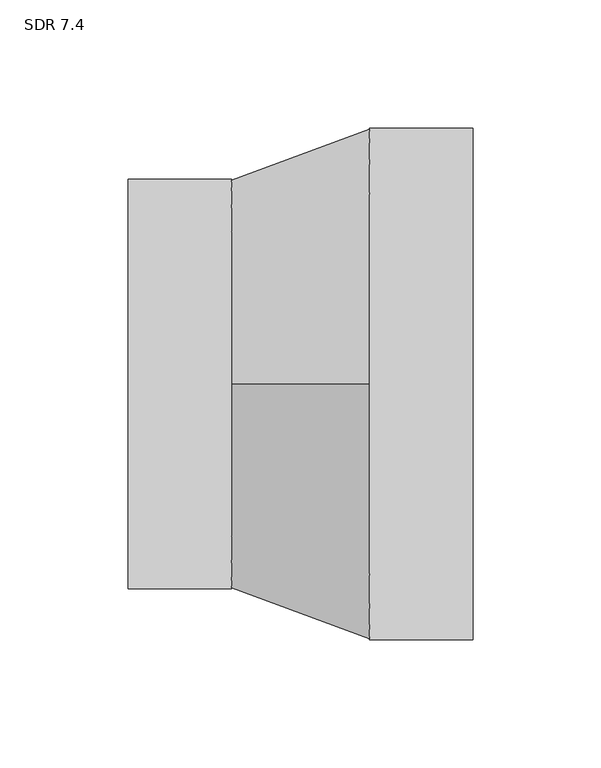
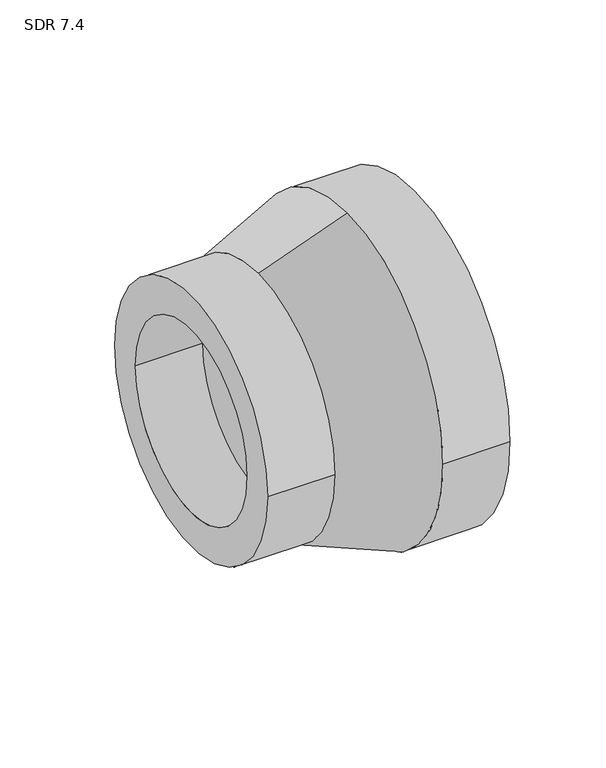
"""IFC4 building model written with IfcOpenShell, lengths in millimetres: pipe fitting geometry, Aquatherm - Reducing Coupling Combined - METRIC : SDR 7.4."""

import ifcopenshell
import ifcopenshell.guid

model = None  # the IFC model being written
_history = None  # IfcOwnerHistory: only IFC2X3 demands one
_inside = {}  # id of a spatial element -> (the spatial element, [elements in it])
_under = {}  # id of a project, library or spatial element -> (it, [spatial elements below it])
_declared = {}  # id of a project -> (the project, [libraries it declares])
_typed = {}  # id of a type object -> (the type object, [elements of that type])
_made_of = {}  # id of a material, layer set ... -> (it, [elements and type objects made of it])


def new_model(schema):
    """Start an empty IFC model of exactly this schema.

    Asked for "IFC4X3", IfcOpenShell would pick the latest addendum, in which some entities
    have other attributes; the version numbers below select the first issue.
    IFC2X3 requires an IfcOwnerHistory on every rooted entity: one is made here for all.
    """
    global model, _history
    if schema == "IFC4X3":
        model = ifcopenshell.file(schema_version=(4, 3, 0, 0))
    else:
        model = ifcopenshell.file(schema=schema)
    _inside.clear()
    _under.clear()
    _declared.clear()
    _typed.clear()
    _made_of.clear()
    _history = None
    if model.schema == "IFC2X3":
        org = make("IfcOrganization", Name="unknown")
        user = make(
            "IfcPersonAndOrganization",
            ThePerson=make("IfcPerson", FamilyName="unknown"),
            TheOrganization=org,
        )
        app = make(
            "IfcApplication",
            ApplicationDeveloper=org,
            Version="unknown",
            ApplicationFullName="unknown",
            ApplicationIdentifier="unknown",
        )
        _history = make(
            "IfcOwnerHistory",
            OwningUser=user,
            OwningApplication=app,
            ChangeAction="ADDED",
            CreationDate=0,
        )
    return model


def make(cls, **values):
    """One entity of the class cls with the attributes given. An attribute that is None is left unset."""
    return model.create_entity(
        cls, **{name: value for name, value in values.items() if value is not None}
    )


def rooted(cls, **values):
    """An entity with a GlobalId (a new one), such as an element, a storey or a relation."""
    return make(cls, GlobalId=ifcopenshell.guid.new(), OwnerHistory=_history, **values)


def si_unit(unit_type, name, prefix=None):
    """IfcSIUnit, for example si_unit("LENGTHUNIT", "METRE", prefix="MILLI")."""
    return make("IfcSIUnit", UnitType=unit_type, Prefix=prefix, Name=name)


def assignment(units):
    """IfcUnitAssignment: the units of a project."""
    return None if units is None else make("IfcUnitAssignment", Units=units)


def point(xyz):
    """IfcCartesianPoint."""
    return None if xyz is None else make("IfcCartesianPoint", Coordinates=xyz)


def direction(xyz):
    """IfcDirection."""
    return None if xyz is None else make("IfcDirection", DirectionRatios=xyz)


def frame(location, z_axis=None, x_axis=None):
    """IfcAxis2Placement3D, a coordinate frame: its origin and axes. An axis left out is left unset."""
    return make(
        "IfcAxis2Placement3D",
        Location=point(location),
        Axis=direction(z_axis),
        RefDirection=direction(x_axis),
    )


def origin():
    """The frame at (0, 0, 0) with its axes left unset."""
    return frame((0.0, 0.0, 0.0))


def place(relative_to, where):
    """IfcLocalPlacement: puts the frame where relative to a parent placement (None: the world)."""
    return make(
        "IfcLocalPlacement", PlacementRelTo=relative_to, RelativePlacement=where
    )


def context(
    kind, dimensions, precision=None, world=None, true_north=None, identifier=None
):
    """IfcGeometricRepresentationContext, for example the 3D "Model" context."""
    return make(
        "IfcGeometricRepresentationContext",
        ContextIdentifier=identifier,
        ContextType=kind,
        CoordinateSpaceDimension=dimensions,
        Precision=precision,
        WorldCoordinateSystem=world,
        TrueNorth=true_north,
    )


def project(units=None, contexts=None):
    """IfcProject with its units and contexts."""
    return rooted(
        "IfcProject",
        Name="project",
        RepresentationContexts=contexts,
        UnitsInContext=assignment(units),
    )


def spatial(cls, under=None, at=None, **own):
    """A site, building, storey or space (cls), placed at a placement, below another one or the project."""
    s = rooted(cls, ObjectPlacement=at, **own)
    if under is not None:
        _under.setdefault(under.id(), (under, []))[1].append(s)
    return s


def polyline(points):
    """IfcPolyline through the points."""
    return make("IfcPolyline", Points=[point(p) for p in points])


def circle_curve(where, radius):
    """IfcCircle in the frame where."""
    return make("IfcCircle", Position=where, Radius=radius)


def shape(context_of_items, identifier, shape_type, items):
    """IfcShapeRepresentation: the items that make up one representation, for example the "Body"."""
    return make(
        "IfcShapeRepresentation",
        ContextOfItems=context_of_items,
        RepresentationIdentifier=identifier,
        RepresentationType=shape_type,
        Items=items,
    )


def source(mapping_origin, context_of_items, identifier, shape_type, items):
    """IfcRepresentationMap: a shape defined once, which mapped items show again and again."""
    return make(
        "IfcRepresentationMap",
        MappingOrigin=mapping_origin,
        MappedRepresentation=shape(context_of_items, identifier, shape_type, items),
    )


def transform(
    local_origin,
    x_axis=None,
    y_axis=None,
    z_axis=None,
    scale=None,
    scale2=None,
    scale3=None,
    uniform=True,
):
    """IfcCartesianTransformationOperator3D, or its non-uniform kind. x_axis, y_axis, z_axis: its Axis1, 2, 3."""
    if uniform:
        return make(
            "IfcCartesianTransformationOperator3D",
            Axis1=direction(x_axis),
            Axis2=direction(y_axis),
            LocalOrigin=point(local_origin),
            Scale=scale,
            Axis3=direction(z_axis),
        )
    return make(
        "IfcCartesianTransformationOperator3DnonUniform",
        Axis1=direction(x_axis),
        Axis2=direction(y_axis),
        LocalOrigin=point(local_origin),
        Scale=scale,
        Axis3=direction(z_axis),
        Scale2=scale2,
        Scale3=scale3,
    )


def mapped(mapping_source, mapping_target):
    """IfcMappedItem: shows the shape of a source again, moved by a transform."""
    return make(
        "IfcMappedItem", MappingSource=mapping_source, MappingTarget=mapping_target
    )


def made_of(thing, what):
    """Note that an element or type object is made of a material, layer set ...; save() writes the relation."""
    if what is not None:
        _made_of.setdefault(what.id(), (what, []))[1].append(thing)
    return thing


def element(
    cls,
    number,
    at=None,
    inside=None,
    cuts=None,
    type_object=None,
    material=None,
    context=None,
    identifier="Body",
    shape_type=None,
    held_by="IfcProductDefinitionShape",
    body=None,
    shapes=None,
    **own,
):
    """One element of the class cls, such as IfcWall. Its Tag is "e" and its number.

    at: its placement. inside: the storey or other place that contains it. cuts: it is an
    opening in that element (IfcRelVoidsElement). A single representation is given by context,
    identifier, shape_type and body (its items); several are given by shapes. held_by: the class
    of the entity that holds the representations. save() writes the other relations.
    """
    e = rooted(cls, Tag="e%d" % number, ObjectPlacement=at, **own)
    if body is not None:
        shapes = [shape(context, identifier, shape_type, body)]
    if shapes is not None:
        e.Representation = make(held_by, Representations=shapes)
    if inside is not None:
        _inside.setdefault(inside.id(), (inside, []))[1].append(e)
    if cuts is not None:
        rooted(
            "IfcRelVoidsElement", RelatingBuildingElement=cuts, RelatedOpeningElement=e
        )
    if type_object is not None:
        _typed.setdefault(type_object.id(), (type_object, []))[1].append(e)
    return made_of(e, material)


def aggregate(whole, parts):
    """IfcRelAggregates: a whole, such as a stair, and the parts it consists of."""
    return rooted("IfcRelAggregates", RelatingObject=whole, RelatedObjects=parts)


def save(model, path):
    """Write the relations noted so far, then the file.

    IfcRelAggregates (storeys below a building ...), IfcRelContainedInSpatialStructure (elements
    in a storey), IfcRelDefinesByType, IfcRelAssociatesMaterial and IfcRelDeclares: one each for
    every whole, place, type object, material and project.
    """
    for whole, parts in _under.values():
        aggregate(whole, parts)
    for where, things in _inside.values():
        rooted(
            "IfcRelContainedInSpatialStructure",
            RelatedElements=things,
            RelatingStructure=where,
        )
    for kind, things in _typed.values():
        rooted("IfcRelDefinesByType", RelatedObjects=things, RelatingType=kind)
    for what, things in _made_of.values():
        rooted("IfcRelAssociatesMaterial", RelatedObjects=things, RelatingMaterial=what)
    for by, libraries in _declared.values():
        rooted("IfcRelDeclares", RelatingContext=by, RelatedDefinitions=libraries)
    model.write(path)


def plane_surface(at):
    """IfcPlane: the flat surface through the origin of the frame at, square to its z axis."""
    return make("IfcPlane", Position=at)


def cylinder_surface(at, radius):
    """IfcCylindricalSurface: all points at the distance radius from the z axis of the frame at."""
    return make("IfcCylindricalSurface", Position=at, Radius=radius)


def revolved_surface(curve, axis_point, axis_direction):
    """IfcSurfaceOfRevolution: the curve turned about the line through axis_point along axis_direction."""
    return make(
        "IfcSurfaceOfRevolution",
        SweptCurve=make("IfcArbitraryOpenProfileDef", ProfileType="CURVE", Curve=curve),
        AxisPosition=make("IfcAxis1Placement", Location=point(axis_point), Axis=direction(axis_direction)),
    )


def advanced_brep(points, edges, surfaces, faces):
    """IfcAdvancedBrep: a solid bounded by faces that lie on surfaces and meet in shared edges.

    An edge is (start, end): straight between two places in points (the first is 0);
    or (start, end, curve); or (start, end, curve, False) where it runs against its curve.
    A face is (place in surfaces, loops), or (place, loops, False) where it looks against
    its surface's normal. A loop lists edges by number (the first is 1), with a minus sign
    where the edge is run from its end to its start. The first loop is the outer one.
    """
    corners = [point(p) for p in points]
    vertices = [make("IfcVertexPoint", VertexGeometry=c) for c in corners]
    made = []
    for start, end, *more in edges:
        made.append(
            make(
                "IfcEdgeCurve",
                EdgeStart=vertices[start],
                EdgeEnd=vertices[end],
                EdgeGeometry=more[0] if more else make("IfcPolyline", Points=[corners[start], corners[end]]),
                SameSense=more[1] if len(more) > 1 else True,
            )
        )
    hull = []
    for where, loops, *sense in faces:
        bounds = []
        for j, loop in enumerate(loops):
            ring = [make("IfcOrientedEdge", EdgeElement=made[abs(k) - 1], Orientation=k > 0) for k in loop]
            bounds.append(
                make(
                    "IfcFaceOuterBound" if j == 0 else "IfcFaceBound",
                    Bound=make("IfcEdgeLoop", EdgeList=ring),
                    Orientation=True,
                )
            )
        hull.append(make("IfcAdvancedFace", Bounds=bounds, FaceSurface=surfaces[where], SameSense=sense[0] if sense else True))
    return make("IfcAdvancedBrep", Outer=make("IfcClosedShell", CfsFaces=hull))


def sdr_7_4_31872572(model_context):
    return source(origin(), model_context, "Body", "AdvancedBrep", [
        advanced_brep(
        [(-67.437, -80.01, 0.0), (-67.437, 80.01, 0.0), (-67.437, -58.3856757, 0.0), (-67.437, 58.3856757, 0.0), (-26.9748, 58.3856757, 0.0), (-26.9748, 0.0, 58.3856757), (-26.9748, -58.3856757, 0.0), (-26.9748, 0.0, -58.3856757), (-26.9748, 80.01, 0.0), (-26.9748, 0.0, -80.01), (-26.9748, -80.01, 0.0), (-26.9748, 0.0, 80.01), (67.437, -99.949, 0.0), (67.437, 99.949, 0.0), (67.437, -72.9357568, 0.0), (67.437, 72.9357568, 0.0), (26.9748, -99.949, 0.0), (26.9748, 0.0, -99.949), (26.9748, 99.949, 0.0), (26.9748, 0.0, 99.949), (26.9748, -72.9357568, 0.0), (26.9748, 0.0, 72.9357568), (26.9748, 72.9357568, 0.0), (26.9748, 0.0, -72.9357568)],
        [
            (0, 1, circle_curve(frame((-67.437, 0.0, 0.0), z_axis=(-1.0, 0.0, 0.0), x_axis=(0.0, 1.0, 0.0)), 80.01)),
            (1, 0, circle_curve(frame((-67.437, 0.0, 0.0), z_axis=(-1.0, 0.0, 0.0), x_axis=(0.0, 1.0, 0.0)), 80.01)),
            (2, 3, circle_curve(frame((-67.437, 0.0, 0.0), z_axis=(1.0, 0.0, 0.0), x_axis=(0.0, 1.0, 0.0)), 58.3856757)),
            (3, 2, circle_curve(frame((-67.437, 0.0, 0.0), z_axis=(1.0, 0.0, 0.0), x_axis=(0.0, 1.0, 0.0)), 58.3856757)),
            (3, 4),
            (4, 5, circle_curve(frame((-26.9748, 0.0, 0.0), z_axis=(1.0, 0.0, 0.0), x_axis=(0.0, 1.0, 0.0)), 58.3856757)),
            (5, 6, circle_curve(frame((-26.9748, 0.0, 0.0), z_axis=(1.0, 0.0, 0.0), x_axis=(0.0, 1.0, 0.0)), 58.3856757)),
            (6, 2),
            (6, 7, circle_curve(frame((-26.9748, 0.0, 0.0), z_axis=(1.0, 0.0, 0.0), x_axis=(0.0, 1.0, 0.0)), 58.3856757)),
            (7, 4, circle_curve(frame((-26.9748, 0.0, 0.0), z_axis=(1.0, 0.0, 0.0), x_axis=(0.0, 1.0, 0.0)), 58.3856757)),
            (1, 8),
            (8, 9, circle_curve(frame((-26.9748, 0.0, 0.0), z_axis=(-1.0, 0.0, 0.0), x_axis=(0.0, 1.0, 0.0)), 80.01)),
            (9, 10, circle_curve(frame((-26.9748, 0.0, 0.0), z_axis=(-1.0, 0.0, 0.0), x_axis=(0.0, 1.0, 0.0)), 80.01)),
            (10, 0),
            (10, 11, circle_curve(frame((-26.9748, 0.0, 0.0), z_axis=(-1.0, 0.0, 0.0), x_axis=(0.0, 1.0, 0.0)), 80.01)),
            (11, 8, circle_curve(frame((-26.9748, 0.0, 0.0), z_axis=(-1.0, 0.0, 0.0), x_axis=(0.0, 1.0, 0.0)), 80.01)),
            (12, 13, circle_curve(frame((67.437, 0.0, 0.0), z_axis=(1.0, 0.0, 0.0), x_axis=(0.0, 1.0, 0.0)), 99.949)),
            (13, 12, circle_curve(frame((67.437, 0.0, 0.0), z_axis=(1.0, 0.0, 0.0), x_axis=(0.0, 1.0, 0.0)), 99.949)),
            (14, 15, circle_curve(frame((67.437, 0.0, 0.0), z_axis=(-1.0, 0.0, 0.0), x_axis=(0.0, 1.0, 0.0)), 72.9357568)),
            (15, 14, circle_curve(frame((67.437, 0.0, 0.0), z_axis=(-1.0, 0.0, 0.0), x_axis=(0.0, 1.0, 0.0)), 72.9357568)),
            (12, 16),
            (16, 17, circle_curve(frame((26.9748, 0.0, 0.0), z_axis=(1.0, 0.0, 0.0), x_axis=(0.0, 1.0, 0.0)), 99.949)),
            (17, 18, circle_curve(frame((26.9748, 0.0, 0.0), z_axis=(1.0, 0.0, 0.0), x_axis=(0.0, 1.0, 0.0)), 99.949)),
            (18, 13),
            (18, 19, circle_curve(frame((26.9748, 0.0, 0.0), z_axis=(1.0, 0.0, 0.0), x_axis=(0.0, 1.0, 0.0)), 99.949)),
            (19, 16, circle_curve(frame((26.9748, 0.0, 0.0), z_axis=(1.0, 0.0, 0.0), x_axis=(0.0, 1.0, 0.0)), 99.949)),
            (14, 20),
            (20, 21, circle_curve(frame((26.9748, 0.0, 0.0), z_axis=(-1.0, 0.0, 0.0), x_axis=(0.0, 1.0, 0.0)), 72.9357568)),
            (21, 22, circle_curve(frame((26.9748, 0.0, 0.0), z_axis=(-1.0, 0.0, 0.0), x_axis=(0.0, 1.0, 0.0)), 72.9357568)),
            (22, 15),
            (22, 23, circle_curve(frame((26.9748, 0.0, 0.0), z_axis=(-1.0, 0.0, 0.0), x_axis=(0.0, 1.0, 0.0)), 72.9357568)),
            (23, 20, circle_curve(frame((26.9748, 0.0, 0.0), z_axis=(-1.0, 0.0, 0.0), x_axis=(0.0, 1.0, 0.0)), 72.9357568)),
            (11, 19),
            (17, 9),
            (21, 5),
            (7, 23),
        ],
        [
            plane_surface(frame((-67.437, 58.3856757, 0.0), z_axis=(-1.0, 0.0, 0.0), x_axis=(0.0, 0.0, 1.0))),
            revolved_surface(polyline([(-67.437, 58.3856757, 0.0), (-26.974800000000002, 58.3856757, 0.0)]), (-67.437, 0.0, 0.0), (-1.0, 0.0, 0.0)),
            cylinder_surface(frame((0.0, 0.0, 0.0), z_axis=(1.0, 0.0, 0.0), x_axis=(0.0, 1.0, 0.0)), 80.01),
            plane_surface(frame((67.437, 99.949, 0.0), z_axis=(1.0, 0.0, 0.0), x_axis=(0.0, 0.0, 1.0))),
            cylinder_surface(frame((26.9748, 0.0, 0.0), z_axis=(1.0, 0.0, 0.0), x_axis=(0.0, 1.0, 0.0)), 99.949),
            revolved_surface(polyline([(26.9748, 72.9357568, 0.0), (67.437, 72.9357568, 0.0)]), (0.0, 0.0, 0.0), (-1.0, 0.0, 0.0)),
            revolved_surface(polyline([(26.9748, 0.0, 99.949), (-26.9748, 0.0, 80.01)]), (-642.6965384, 0.0, 0.0), (-1.0, 0.0, 0.0)),
            revolved_surface(polyline([(-26.9748, 0.0, 58.3856757), (26.9748, 0.0, 72.9357568)]), (-642.6965384, 0.0, 0.0), (-1.0, 0.0, 0.0)),
        ],
        [
            (0, [[1, 2], [3, 4]]),
            (1, [[-4, 5, 6, 7, 8]]),
            (1, [[-3, -8, 9, 10, -5]]),
            (2, [[-2, 11, 12, 13, 14]]),
            (2, [[-1, -14, 15, 16, -11]]),
            (3, [[17, 18], [19, 20]]),
            (4, [[-17, 21, 22, 23, 24]]),
            (4, [[-18, -24, 25, 26, -21]]),
            (5, [[-19, 27, 28, 29, 30]]),
            (5, [[-20, -30, 31, 32, -27]]),
            (6, [[33, -25, -23, 34, -12, -16]]),
            (6, [[-33, -15, -13, -34, -22, -26]]),
            (7, [[35, -6, -10, 36, -31, -29]]),
            (7, [[-35, -28, -32, -36, -9, -7]]),
        ],
    ),
    ])


if __name__ == "__main__":
    model = new_model("IFC4")
    model_context = context("Model", 3, world=origin())
    ifc_project = project(units=[si_unit("LENGTHUNIT", "METRE", prefix="MILLI")], contexts=[model_context])
    site = spatial("IfcSite", under=ifc_project)
    building = spatial("IfcBuilding", under=site)
    placement = place(None, origin())
    sdr_7_4_shape = sdr_7_4_31872572(model_context)
    element("IfcPipeFitting", 1, ObjectType="Aquatherm - Reducing Coupling Combined - METRIC : SDR 7.4", at=placement, inside=building, context=model_context, shape_type="MappedRepresentation", body=[
        mapped(sdr_7_4_shape, transform((0.0, 0.0, 0.0), x_axis=(1.0, 0.0, 0.0), y_axis=(0.0, 1.0, 0.0), z_axis=(0.0, 0.0, 1.0))),
    ])
    save(model, "model.ifc")
